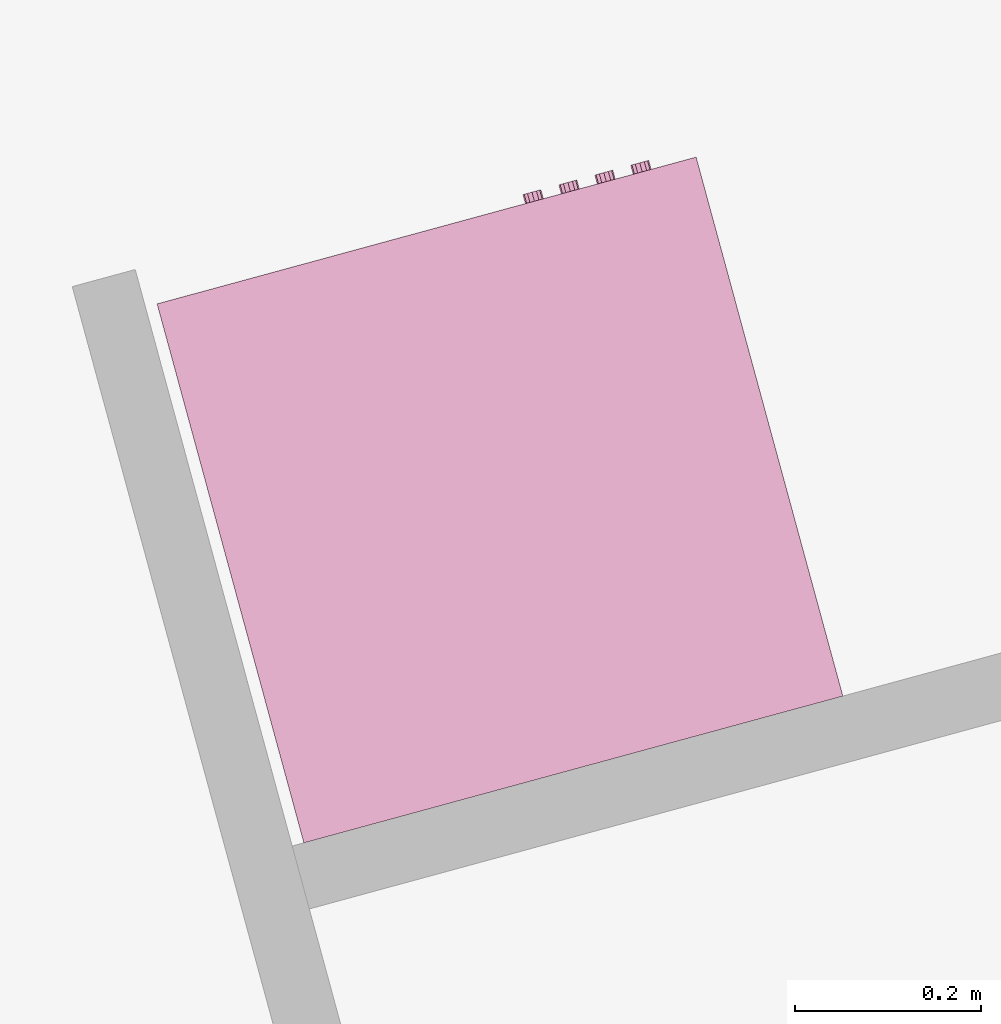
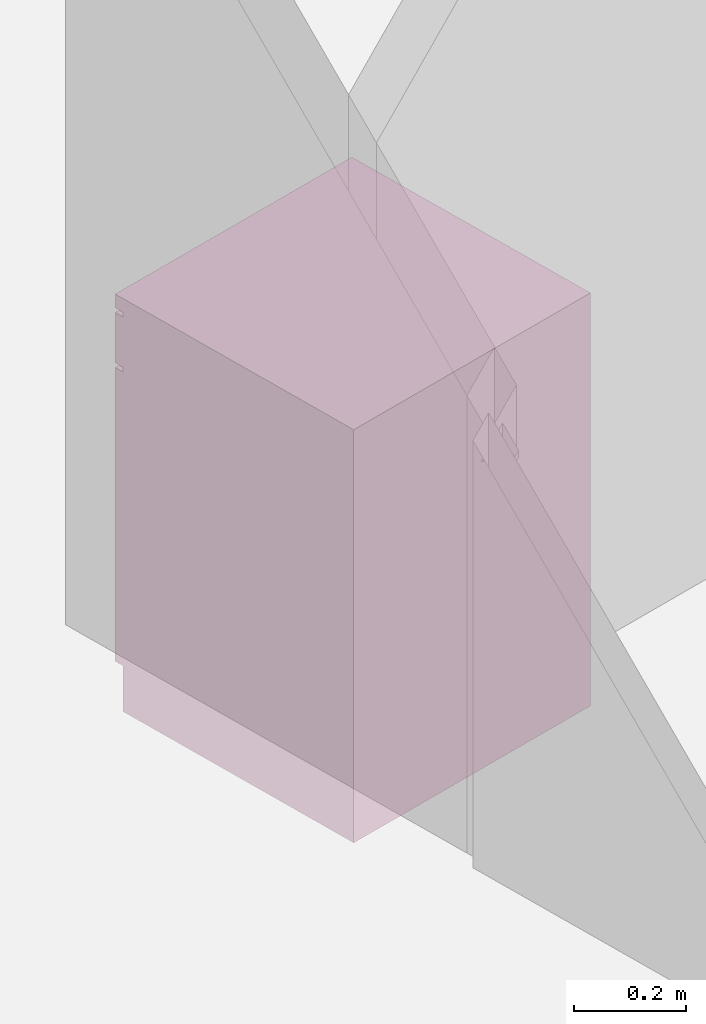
# One storey, part 107 of 121: 1 furnishing.
"""IFC2X3 building model written with IfcOpenShell, lengths in metres."""

from ifc_helpers import new_model, entity, si_unit, converted_unit, derived_unit, money_unit, direction, frame, origin_with_axes, place, context, subcontext, project, spatial, open_shell, faceted_brep, surface_model, source, transform, mapped, type_object, element, save


model = new_model("IFC2X3")

# Units and contexts
model_context = context("Model", 3, precision=1e-05, world=origin_with_axes(), true_north=direction((0.0, 1.0)))
body_context = subcontext(model_context, "Body", "Model", "MODEL_VIEW")
ifc_project = project(units=[si_unit("LENGTHUNIT", "METRE"), si_unit("AREAUNIT", "SQUARE_METRE"), si_unit("VOLUMEUNIT", "CUBIC_METRE"), converted_unit("PLANEANGLEUNIT", "DEGREE", entity("IfcPlaneAngleMeasure", 0.0174532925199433), si_unit("PLANEANGLEUNIT", "RADIAN"), dimensions=[0, 0, 0, 0, 0, 0, 0]), money_unit("CHF"), converted_unit("TIMEUNIT", "Year", entity("IfcTimeMeasure", 31557600.0), si_unit("TIMEUNIT", "SECOND"), dimensions=[0, 0, 1, 0, 0, 0, 0]), si_unit("MASSUNIT", "GRAM", prefix="KILO"), si_unit("THERMODYNAMICTEMPERATUREUNIT", "DEGREE_CELSIUS"), si_unit("LUMINOUSINTENSITYUNIT", "LUMEN"), si_unit("ENERGYUNIT", "JOULE", prefix="MEGA"), derived_unit("THERMALCONDUCTANCEUNIT", [(si_unit("POWERUNIT", "WATT"), 1), (si_unit("LENGTHUNIT", "METRE"), -1), (si_unit("THERMODYNAMICTEMPERATUREUNIT", "KELVIN"), -1)]), derived_unit("SPECIFICHEATCAPACITYUNIT", [(si_unit("ENERGYUNIT", "JOULE"), 1), (si_unit("MASSUNIT", "GRAM", prefix="KILO"), -1), (si_unit("THERMODYNAMICTEMPERATUREUNIT", "KELVIN"), -1)]), derived_unit("MASSDENSITYUNIT", [(si_unit("MASSUNIT", "GRAM", prefix="KILO"), 1), (si_unit("VOLUMEUNIT", "CUBIC_METRE"), -1)])], contexts=[model_context])

# Site, building, storey
site_placement = place(None, origin_with_axes())
site = spatial("IfcSite", under=ifc_project, at=site_placement, Name="Site", CompositionType="ELEMENT")
building_placement = place(site_placement, origin_with_axes())
building = spatial("IfcBuilding", under=site, at=building_placement, Name="Bâtiment", CompositionType="ELEMENT")
storey_placement = place(building_placement, frame((0.0, 0.0, 2.75), z_axis=(0.0, 0.0, 1.0), x_axis=(1.0, 0.0, 0.0)))
storey = spatial("IfcBuildingStorey", under=building, at=storey_placement, Name="Etage 1", CompositionType="ELEMENT", Elevation=2.75)

# Furnishing
furnishing_element_type = type_object("IfcFurnishingElementType", Name="Machine à laver")
shared_shape = source(origin_with_axes(), body_context, "Body", "SurfaceModel", [
    faceted_brep([(0.0, 0.02, 0.1), (0.6, 0.02, 0.1), (0.6, 0.0, 0.1), (0.0, 0.0, 0.1), (0.0, 0.02000000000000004, 0.74), (0.6, 0.02000000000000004, 0.74), (0.4714285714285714, 0.02000000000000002, 0.42), (0.4655872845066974, 0.02000000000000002, 0.4643689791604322), (0.448461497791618, 0.02000000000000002, 0.5057142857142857), (0.4212183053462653, 0.02000000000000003, 0.5412183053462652), (0.3857142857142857, 0.02000000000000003, 0.568461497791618), (0.3443689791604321, 0.02000000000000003, 0.5855872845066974), (0.3, 0.02000000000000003, 0.5914285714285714), (0.2556310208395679, 0.02000000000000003, 0.5855872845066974), (0.2142857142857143, 0.02000000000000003, 0.5684614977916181), (0.1787816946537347, 0.02000000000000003, 0.5412183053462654), (0.1515385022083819, 0.02000000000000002, 0.5057142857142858), (0.1344127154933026, 0.02000000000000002, 0.4643689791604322), (0.1285714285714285, 0.02000000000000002, 0.42), (0.1344127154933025, 0.02000000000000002, 0.3756310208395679), (0.1515385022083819, 0.02000000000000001, 0.3342857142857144), (0.1787816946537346, 0.02000000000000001, 0.2987816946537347), (0.2142857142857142, 0.02000000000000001, 0.2715385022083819), (0.2556310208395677, 0.02000000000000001, 0.2544127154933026), (0.2999999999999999, 0.02000000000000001, 0.2485714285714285), (0.344368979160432, 0.02000000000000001, 0.2544127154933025), (0.3857142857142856, 0.02000000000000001, 0.2715385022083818), (0.4212183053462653, 0.02000000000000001, 0.2987816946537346), (0.448461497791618, 0.02000000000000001, 0.3342857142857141), (0.4655872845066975, 0.02000000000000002, 0.3756310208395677), (0.6, 0.0, 0.74), (0.0, 0.0, 0.74), (0.4714285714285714, 0.0, 0.42), (0.4655872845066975, 0.0, 0.3756310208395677), (0.448461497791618, 0.0, 0.3342857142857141), (0.4212183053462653, 0.0, 0.2987816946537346), (0.3857142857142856, 0.0, 0.2715385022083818), (0.344368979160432, 0.0, 0.2544127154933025), (0.2999999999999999, 0.0, 0.2485714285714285), (0.2556310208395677, 0.0, 0.2544127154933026), (0.2142857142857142, 0.0, 0.2715385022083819), (0.1787816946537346, 0.0, 0.2987816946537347), (0.1515385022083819, 0.0, 0.3342857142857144), (0.1344127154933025, 0.0, 0.3756310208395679), (0.1285714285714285, 0.0, 0.42), (0.1344127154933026, 0.0, 0.4643689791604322), (0.1515385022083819, 0.0, 0.5057142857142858), (0.1787816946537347, 0.0, 0.5412183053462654), (0.2142857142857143, 0.0, 0.5684614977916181), (0.2556310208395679, 0.0, 0.5855872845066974), (0.3, 0.0, 0.5914285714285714), (0.3443689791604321, 0.0, 0.5855872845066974), (0.3857142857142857, 0.0, 0.568461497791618), (0.4212183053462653, 0.0, 0.5412183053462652), (0.448461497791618, 0.0, 0.5057142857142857), (0.4655872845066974, 0.0, 0.4643689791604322)], [[[0, 1, 2, 3]], [[0, 4, 5, 1], [6, 7, 8, 9, 10, 11, 12, 13, 14, 15, 16, 17, 18, 19, 20, 21, 22, 23, 24, 25, 26, 27, 28, 29]], [[1, 5, 30, 2]], [[3, 2, 30, 31], [32, 33, 34, 35, 36, 37, 38, 39, 40, 41, 42, 43, 44, 45, 46, 47, 48, 49, 50, 51, 52, 53, 54, 55]], [[4, 0, 3, 31]], [[5, 4, 31, 30]], [[7, 6, 32, 55]], [[8, 7, 55, 54]], [[9, 8, 54, 53]], [[10, 9, 53, 52]], [[11, 10, 52, 51]], [[12, 11, 51, 50]], [[13, 12, 50, 49]], [[14, 13, 49, 48]], [[15, 14, 48, 47]], [[16, 15, 47, 46]], [[17, 16, 46, 45]], [[18, 17, 45, 44]], [[19, 18, 44, 43]], [[20, 19, 43, 42]], [[21, 20, 42, 41]], [[22, 21, 41, 40]], [[23, 22, 40, 39]], [[24, 23, 39, 38]], [[25, 24, 38, 37]], [[26, 25, 37, 36]], [[27, 26, 36, 35]], [[28, 27, 35, 34]], [[29, 28, 34, 33]], [[6, 29, 33, 32]]]),
    faceted_brep([(0.4714285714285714, 0.04000000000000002, 0.42), (0.4655872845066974, 0.04000000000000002, 0.4643689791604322), (0.4655872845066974, 0.02000000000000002, 0.4643689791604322), (0.4714285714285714, 0.02000000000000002, 0.42), (0.4655872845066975, 0.04000000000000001, 0.3756310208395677), (0.448461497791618, 0.04000000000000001, 0.3342857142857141), (0.4212183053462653, 0.04000000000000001, 0.2987816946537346), (0.3857142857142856, 0.04000000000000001, 0.2715385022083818), (0.344368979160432, 0.04000000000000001, 0.2544127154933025), (0.2999999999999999, 0.04000000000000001, 0.2485714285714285), (0.2556310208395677, 0.04000000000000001, 0.2544127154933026), (0.2142857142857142, 0.04000000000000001, 0.2715385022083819), (0.1787816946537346, 0.04000000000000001, 0.2987816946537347), (0.1515385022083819, 0.04000000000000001, 0.3342857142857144), (0.1344127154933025, 0.04000000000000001, 0.3756310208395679), (0.1285714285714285, 0.04000000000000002, 0.42), (0.1344127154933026, 0.04000000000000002, 0.4643689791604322), (0.1515385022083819, 0.04000000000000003, 0.5057142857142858), (0.1787816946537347, 0.04000000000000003, 0.5412183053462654), (0.2142857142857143, 0.04000000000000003, 0.5684614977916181), (0.2556310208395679, 0.04000000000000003, 0.5855872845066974), (0.3, 0.04000000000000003, 0.5914285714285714), (0.3443689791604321, 0.04000000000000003, 0.5855872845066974), (0.3857142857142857, 0.04000000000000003, 0.568461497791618), (0.4212183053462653, 0.04000000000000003, 0.5412183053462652), (0.448461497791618, 0.04000000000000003, 0.5057142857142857), (0.4371428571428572, 0.04000000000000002, 0.42), (0.432469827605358, 0.04000000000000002, 0.4554951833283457), (0.4187691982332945, 0.04000000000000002, 0.4885714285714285), (0.3969746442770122, 0.04000000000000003, 0.5169746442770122), (0.3685714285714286, 0.04000000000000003, 0.5387691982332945), (0.3354951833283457, 0.04000000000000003, 0.552469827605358), (0.3, 0.04000000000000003, 0.5571428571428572), (0.2645048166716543, 0.04000000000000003, 0.552469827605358), (0.2314285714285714, 0.04000000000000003, 0.5387691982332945), (0.2030253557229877, 0.04000000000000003, 0.5169746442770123), (0.1812308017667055, 0.04000000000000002, 0.4885714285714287), (0.167530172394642, 0.04000000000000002, 0.4554951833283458), (0.1628571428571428, 0.04000000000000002, 0.42), (0.167530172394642, 0.04000000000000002, 0.3845048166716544), (0.1812308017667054, 0.04000000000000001, 0.3514285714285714), (0.2030253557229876, 0.04000000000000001, 0.3230253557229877), (0.2314285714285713, 0.04000000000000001, 0.3012308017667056), (0.2645048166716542, 0.04000000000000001, 0.287530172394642), (0.2999999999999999, 0.04000000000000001, 0.2828571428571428), (0.3354951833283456, 0.04000000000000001, 0.287530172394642), (0.3685714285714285, 0.04000000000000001, 0.3012308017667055), (0.3969746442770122, 0.04000000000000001, 0.3230253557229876), (0.4187691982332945, 0.04000000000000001, 0.3514285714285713), (0.432469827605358, 0.04000000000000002, 0.3845048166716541), (0.448461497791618, 0.02000000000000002, 0.5057142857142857), (0.4212183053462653, 0.02000000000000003, 0.5412183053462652), (0.3857142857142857, 0.02000000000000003, 0.568461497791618), (0.3443689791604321, 0.02000000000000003, 0.5855872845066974), (0.3, 0.02000000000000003, 0.5914285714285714), (0.2556310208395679, 0.02000000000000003, 0.5855872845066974), (0.2142857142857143, 0.02000000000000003, 0.5684614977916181), (0.1787816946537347, 0.02000000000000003, 0.5412183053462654), (0.1515385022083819, 0.02000000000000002, 0.5057142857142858), (0.1344127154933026, 0.02000000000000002, 0.4643689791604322), (0.1285714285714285, 0.02000000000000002, 0.42), (0.1344127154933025, 0.02000000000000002, 0.3756310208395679), (0.1515385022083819, 0.02000000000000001, 0.3342857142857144), (0.1787816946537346, 0.02000000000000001, 0.2987816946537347), (0.2142857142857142, 0.02000000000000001, 0.2715385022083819), (0.2556310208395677, 0.02000000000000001, 0.2544127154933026), (0.2999999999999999, 0.02000000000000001, 0.2485714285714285), (0.344368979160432, 0.02000000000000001, 0.2544127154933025), (0.3857142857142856, 0.02000000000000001, 0.2715385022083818), (0.4212183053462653, 0.02000000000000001, 0.2987816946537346), (0.448461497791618, 0.02000000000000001, 0.3342857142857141), (0.4655872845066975, 0.02000000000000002, 0.3756310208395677), (0.4371428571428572, 0.02000000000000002, 0.42), (0.432469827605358, 0.02000000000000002, 0.3845048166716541), (0.4187691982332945, 0.02000000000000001, 0.3514285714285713), (0.3969746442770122, 0.02000000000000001, 0.3230253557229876), (0.3685714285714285, 0.02000000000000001, 0.3012308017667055), (0.3354951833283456, 0.02000000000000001, 0.287530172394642), (0.2999999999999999, 0.02000000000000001, 0.2828571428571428), (0.2645048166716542, 0.02000000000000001, 0.287530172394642), (0.2314285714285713, 0.02000000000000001, 0.3012308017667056), (0.2030253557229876, 0.02000000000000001, 0.3230253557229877), (0.1812308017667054, 0.02000000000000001, 0.3514285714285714), (0.167530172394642, 0.02000000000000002, 0.3845048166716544), (0.1628571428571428, 0.02000000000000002, 0.42), (0.167530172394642, 0.02000000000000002, 0.4554951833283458), (0.1812308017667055, 0.02000000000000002, 0.4885714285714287), (0.2030253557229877, 0.02000000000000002, 0.5169746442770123), (0.2314285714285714, 0.02000000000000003, 0.5387691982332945), (0.2645048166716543, 0.02000000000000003, 0.552469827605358), (0.3, 0.02000000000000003, 0.5571428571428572), (0.3354951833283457, 0.02000000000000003, 0.552469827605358), (0.3685714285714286, 0.02000000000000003, 0.5387691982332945), (0.3969746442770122, 0.02000000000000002, 0.5169746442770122), (0.4187691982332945, 0.02000000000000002, 0.4885714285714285), (0.432469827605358, 0.02000000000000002, 0.4554951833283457)], [[[0, 1, 2, 3]], [[0, 4, 5, 6, 7, 8, 9, 10, 11, 12, 13, 14, 15, 16, 17, 18, 19, 20, 21, 22, 23, 24, 25, 1], [26, 27, 28, 29, 30, 31, 32, 33, 34, 35, 36, 37, 38, 39, 40, 41, 42, 43, 44, 45, 46, 47, 48, 49]], [[1, 25, 50, 2]], [[3, 2, 50, 51, 52, 53, 54, 55, 56, 57, 58, 59, 60, 61, 62, 63, 64, 65, 66, 67, 68, 69, 70, 71], [72, 73, 74, 75, 76, 77, 78, 79, 80, 81, 82, 83, 84, 85, 86, 87, 88, 89, 90, 91, 92, 93, 94, 95]], [[4, 0, 3, 71]], [[5, 4, 71, 70]], [[6, 5, 70, 69]], [[7, 6, 69, 68]], [[8, 7, 68, 67]], [[9, 8, 67, 66]], [[10, 9, 66, 65]], [[11, 10, 65, 64]], [[12, 11, 64, 63]], [[13, 12, 63, 62]], [[14, 13, 62, 61]], [[15, 14, 61, 60]], [[16, 15, 60, 59]], [[17, 16, 59, 58]], [[18, 17, 58, 57]], [[19, 18, 57, 56]], [[20, 19, 56, 55]], [[21, 20, 55, 54]], [[22, 21, 54, 53]], [[23, 22, 53, 52]], [[24, 23, 52, 51]], [[25, 24, 51, 50]], [[27, 26, 72, 95]], [[28, 27, 95, 94]], [[29, 28, 94, 93]], [[30, 29, 93, 92]], [[31, 30, 92, 91]], [[32, 31, 91, 90]], [[33, 32, 90, 89]], [[34, 33, 89, 88]], [[35, 34, 88, 87]], [[36, 35, 87, 86]], [[37, 36, 86, 85]], [[38, 37, 85, 84]], [[39, 38, 84, 83]], [[40, 39, 83, 82]], [[41, 40, 82, 81]], [[42, 41, 81, 80]], [[43, 42, 80, 79]], [[44, 43, 79, 78]], [[45, 44, 78, 77]], [[46, 45, 77, 76]], [[47, 46, 76, 75]], [[48, 47, 75, 74]], [[49, 48, 74, 73]], [[26, 49, 73, 72]]]),
    surface_model("IfcShellBasedSurfaceModel", [(0.2645048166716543, 0.03999999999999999, 0.552469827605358), (0.3, 0.03999999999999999, 0.5571428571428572), (0.3, 0.14, 0.5228571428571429), (0.2733786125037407, 0.14, 0.5193523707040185), (0.3354951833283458, 0.03999999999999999, 0.552469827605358), (0.3266213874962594, 0.14, 0.5193523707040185), (0.3514285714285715, 0.14, 0.5090768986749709), (0.3727309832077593, 0.14, 0.4927309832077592), (0.3890768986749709, 0.14, 0.4714285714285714), (0.3993523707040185, 0.14, 0.4466213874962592), (0.4028571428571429, 0.14, 0.42), (0.3993523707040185, 0.14, 0.3933786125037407), (0.3890768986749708, 0.14, 0.3685714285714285), (0.3727309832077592, 0.14, 0.3472690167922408), (0.3514285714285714, 0.14, 0.3309231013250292), (0.3266213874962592, 0.14, 0.3206476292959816), (0.2999999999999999, 0.14, 0.3171428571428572), (0.2733786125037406, 0.14, 0.3206476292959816), (0.2485714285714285, 0.14, 0.3309231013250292), (0.2272690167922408, 0.14, 0.3472690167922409), (0.2109231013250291, 0.14, 0.3685714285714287), (0.2006476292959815, 0.14, 0.3933786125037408), (0.1971428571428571, 0.14, 0.4200000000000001), (0.2006476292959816, 0.14, 0.4466213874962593), (0.2109231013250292, 0.14, 0.4714285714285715), (0.2272690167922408, 0.14, 0.4927309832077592), (0.2485714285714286, 0.14, 0.5090768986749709), (0.2314285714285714, 0.03999999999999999, 0.5387691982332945), (0.3685714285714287, 0.03999999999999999, 0.5387691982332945), (0.3969746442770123, 0.03999999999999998, 0.5169746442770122), (0.4187691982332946, 0.03999999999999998, 0.4885714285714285), (0.432469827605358, 0.03999999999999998, 0.4554951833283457), (0.4371428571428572, 0.03999999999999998, 0.4199999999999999), (0.432469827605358, 0.03999999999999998, 0.3845048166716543), (0.4187691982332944, 0.03999999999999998, 0.3514285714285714), (0.3969746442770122, 0.03999999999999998, 0.3230253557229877), (0.3685714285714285, 0.03999999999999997, 0.3012308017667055), (0.3354951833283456, 0.03999999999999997, 0.2875301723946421), (0.2999999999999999, 0.03999999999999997, 0.2828571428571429), (0.2645048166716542, 0.03999999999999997, 0.2875301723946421), (0.2314285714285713, 0.03999999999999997, 0.3012308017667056), (0.2030253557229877, 0.03999999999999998, 0.3230253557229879), (0.1812308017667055, 0.03999999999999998, 0.3514285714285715), (0.167530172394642, 0.03999999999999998, 0.3845048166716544), (0.1628571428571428, 0.03999999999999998, 0.4200000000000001), (0.167530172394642, 0.03999999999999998, 0.4554951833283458), (0.1812308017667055, 0.03999999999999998, 0.4885714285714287), (0.2030253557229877, 0.03999999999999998, 0.5169746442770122)], [open_shell([[[0, 1, 2, 3]], [[1, 4, 5, 2]], [[2, 5, 6, 7, 8, 9, 10, 11, 12, 13, 14, 15, 16, 17, 18, 19, 20, 21, 22, 23, 24, 25, 26, 3]], [[27, 0, 3, 26]], [[4, 28, 6, 5]], [[28, 29, 7, 6]], [[29, 30, 8, 7]], [[30, 31, 9, 8]], [[31, 32, 10, 9]], [[32, 33, 11, 10]], [[33, 34, 12, 11]], [[34, 35, 13, 12]], [[35, 36, 14, 13]], [[36, 37, 15, 14]], [[37, 38, 16, 15]], [[38, 39, 17, 16]], [[39, 40, 18, 17]], [[40, 41, 19, 18]], [[41, 42, 20, 19]], [[42, 43, 21, 20]], [[43, 44, 22, 21]], [[44, 45, 23, 22]], [[45, 46, 24, 23]], [[46, 47, 25, 24]], [[47, 27, 26, 25]]])]),
    surface_model("IfcShellBasedSurfaceModel", [(0.0, 0.02, 0.1), (0.0, 0.02000000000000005, 0.87), (0.0, 0.6, 0.87), (0.0, 0.6, 0.09999999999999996)], [open_shell([[[0, 1, 2, 3]]])]),
    surface_model("IfcShellBasedSurfaceModel", [(0.6, 0.01999999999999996, 0.1), (0.6, 0.02000000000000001, 0.87), (0.6, 0.5999999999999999, 0.87), (0.6, 0.5999999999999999, 0.09999999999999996)], [open_shell([[[0, 1, 2, 3]]])]),
    surface_model("IfcShellBasedSurfaceModel", [(0.0, 0.6, 0.1), (0.0, 0.6, 0.87), (0.6, 0.6, 0.87), (0.6, 0.6, 0.1)], [open_shell([[[0, 1, 2, 3]]])]),
    faceted_brep([(0.0, 0.02, 0.0), (0.6, 0.02, 0.0), (0.6, 0.02, 0.1), (0.0, 0.02, 0.1), (0.0, 0.6, 0.0), (0.6, 0.6, 0.0), (0.6, 0.6, 0.1), (0.0, 0.6, 0.1)], [[[0, 1, 2, 3]], [[0, 4, 5, 1]], [[1, 5, 6, 2]], [[3, 2, 6, 7]], [[4, 0, 3, 7]], [[5, 4, 7, 6]]]),
    faceted_brep([(0.0, 0.02, 0.75), (0.6, 0.02, 0.75), (0.6, 0.0, 0.75), (0.0, 0.0, 0.75), (0.0, 0.02000000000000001, 0.86), (0.6, 0.02000000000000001, 0.86), (0.6, 0.0, 0.86), (0.0, 0.0, 0.86)], [[[0, 1, 2, 3]], [[0, 4, 5, 1]], [[1, 5, 6, 2]], [[3, 2, 6, 7]], [[4, 0, 3, 7]], [[5, 4, 7, 6]]]),
    surface_model("IfcShellBasedSurfaceModel", [(0.0, 0.02, 0.74), (0.0, 0.02000000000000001, 0.87), (0.6, 0.02000000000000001, 0.87), (0.6, 0.02, 0.74)], [open_shell([[[0, 1, 2, 3]]])]),
    faceted_brep([(0.0, 0.0, 0.87), (0.6, 0.0, 0.87), (0.6, 0.0, 0.9), (0.0, 0.0, 0.9), (0.0, 0.6, 0.87), (0.6, 0.6, 0.87), (0.6, 0.6, 0.9), (0.0, 0.6, 0.9)], [[[0, 1, 2, 3]], [[0, 4, 5, 1]], [[1, 5, 6, 2]], [[3, 2, 6, 7]], [[4, 0, 3, 7]], [[5, 4, 7, 6]]]),
    faceted_brep([(0.06866025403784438, 0.0, 0.8049999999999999), (0.06499999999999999, 0.0, 0.8013397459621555), (0.05999999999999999, 0.0, 0.7999999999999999), (0.05499999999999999, 0.0, 0.8013397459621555), (0.05133974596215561, 0.0, 0.8049999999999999), (0.05, 0.0, 0.8099999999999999), (0.05133974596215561, 0.0, 0.815), (0.055, 0.0, 0.8186602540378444), (0.06, 0.0, 0.82), (0.065, 0.0, 0.8186602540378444), (0.06866025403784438, 0.0, 0.815), (0.06999999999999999, 0.0, 0.8099999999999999), (0.06866025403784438, -0.01, 0.8049999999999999), (0.06499999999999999, -0.01, 0.8013397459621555), (0.05999999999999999, -0.01, 0.7999999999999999), (0.05499999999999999, -0.01, 0.8013397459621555), (0.05133974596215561, -0.01, 0.8049999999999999), (0.05, -0.01, 0.8099999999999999), (0.05133974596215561, -0.01, 0.815), (0.055, -0.01, 0.8186602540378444), (0.06, -0.01, 0.82), (0.065, -0.01, 0.8186602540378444), (0.06866025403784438, -0.01, 0.815), (0.06999999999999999, -0.01, 0.8099999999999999)], [[[0, 1, 2, 3, 4, 5, 6, 7, 8, 9, 10, 11]], [[1, 0, 12, 13]], [[2, 1, 13, 14]], [[3, 2, 14, 15]], [[4, 3, 15, 16]], [[5, 4, 16, 17]], [[6, 5, 17, 18]], [[7, 6, 18, 19]], [[8, 7, 19, 20]], [[9, 8, 20, 21]], [[10, 9, 21, 22]], [[11, 10, 22, 23]], [[0, 11, 23, 12]], [[12, 23, 22, 21, 20, 19, 18, 17, 16, 15, 14, 13]]]),
    faceted_brep([(0.1086602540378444, 0.0, 0.8049999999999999), (0.105, 0.0, 0.8013397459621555), (0.09999999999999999, 0.0, 0.7999999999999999), (0.095, 0.0, 0.8013397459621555), (0.09133974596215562, 0.0, 0.8049999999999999), (0.09000000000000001, 0.0, 0.8099999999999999), (0.09133974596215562, 0.0, 0.815), (0.095, 0.0, 0.8186602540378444), (0.1, 0.0, 0.82), (0.105, 0.0, 0.8186602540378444), (0.1086602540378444, 0.0, 0.815), (0.11, 0.0, 0.8099999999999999), (0.1086602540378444, -0.01, 0.8049999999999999), (0.105, -0.01, 0.8013397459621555), (0.09999999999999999, -0.01, 0.7999999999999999), (0.095, -0.01, 0.8013397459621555), (0.09133974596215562, -0.01, 0.8049999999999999), (0.09000000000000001, -0.01, 0.8099999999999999), (0.09133974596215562, -0.01, 0.815), (0.095, -0.01, 0.8186602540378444), (0.1, -0.01, 0.82), (0.105, -0.01, 0.8186602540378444), (0.1086602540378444, -0.01, 0.815), (0.11, -0.01, 0.8099999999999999)], [[[0, 1, 2, 3, 4, 5, 6, 7, 8, 9, 10, 11]], [[1, 0, 12, 13]], [[2, 1, 13, 14]], [[3, 2, 14, 15]], [[4, 3, 15, 16]], [[5, 4, 16, 17]], [[6, 5, 17, 18]], [[7, 6, 18, 19]], [[8, 7, 19, 20]], [[9, 8, 20, 21]], [[10, 9, 21, 22]], [[11, 10, 22, 23]], [[0, 11, 23, 12]], [[12, 23, 22, 21, 20, 19, 18, 17, 16, 15, 14, 13]]]),
    faceted_brep([(0.1486602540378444, 0.0, 0.8049999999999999), (0.145, 0.0, 0.8013397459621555), (0.14, 0.0, 0.7999999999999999), (0.135, 0.0, 0.8013397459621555), (0.1313397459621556, 0.0, 0.8049999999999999), (0.13, 0.0, 0.8099999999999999), (0.1313397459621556, 0.0, 0.815), (0.135, 0.0, 0.8186602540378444), (0.14, 0.0, 0.82), (0.145, 0.0, 0.8186602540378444), (0.1486602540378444, 0.0, 0.815), (0.15, 0.0, 0.8099999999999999), (0.1486602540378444, -0.01, 0.8049999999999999), (0.145, -0.01, 0.8013397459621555), (0.14, -0.01, 0.7999999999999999), (0.135, -0.01, 0.8013397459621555), (0.1313397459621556, -0.01, 0.8049999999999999), (0.13, -0.01, 0.8099999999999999), (0.1313397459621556, -0.01, 0.815), (0.135, -0.01, 0.8186602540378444), (0.14, -0.01, 0.82), (0.145, -0.01, 0.8186602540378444), (0.1486602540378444, -0.01, 0.815), (0.15, -0.01, 0.8099999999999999)], [[[0, 1, 2, 3, 4, 5, 6, 7, 8, 9, 10, 11]], [[1, 0, 12, 13]], [[2, 1, 13, 14]], [[3, 2, 14, 15]], [[4, 3, 15, 16]], [[5, 4, 16, 17]], [[6, 5, 17, 18]], [[7, 6, 18, 19]], [[8, 7, 19, 20]], [[9, 8, 20, 21]], [[10, 9, 21, 22]], [[11, 10, 22, 23]], [[0, 11, 23, 12]], [[12, 23, 22, 21, 20, 19, 18, 17, 16, 15, 14, 13]]]),
    faceted_brep([(0.1886602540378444, 0.0, 0.8049999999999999), (0.185, 0.0, 0.8013397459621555), (0.18, 0.0, 0.7999999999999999), (0.175, 0.0, 0.8013397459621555), (0.1713397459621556, 0.0, 0.8049999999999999), (0.17, 0.0, 0.8099999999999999), (0.1713397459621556, 0.0, 0.815), (0.175, 0.0, 0.8186602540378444), (0.18, 0.0, 0.82), (0.185, 0.0, 0.8186602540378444), (0.1886602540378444, 0.0, 0.815), (0.19, 0.0, 0.8099999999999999), (0.1886602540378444, -0.01, 0.8049999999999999), (0.185, -0.01, 0.8013397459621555), (0.18, -0.01, 0.7999999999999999), (0.175, -0.01, 0.8013397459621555), (0.1713397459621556, -0.01, 0.8049999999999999), (0.17, -0.01, 0.8099999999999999), (0.1713397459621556, -0.01, 0.815), (0.175, -0.01, 0.8186602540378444), (0.18, -0.01, 0.82), (0.185, -0.01, 0.8186602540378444), (0.1886602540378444, -0.01, 0.815), (0.19, -0.01, 0.8099999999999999)], [[[0, 1, 2, 3, 4, 5, 6, 7, 8, 9, 10, 11]], [[1, 0, 12, 13]], [[2, 1, 13, 14]], [[3, 2, 14, 15]], [[4, 3, 15, 16]], [[5, 4, 16, 17]], [[6, 5, 17, 18]], [[7, 6, 18, 19]], [[8, 7, 19, 20]], [[9, 8, 20, 21]], [[10, 9, 21, 22]], [[11, 10, 22, 23]], [[0, 11, 23, 12]], [[12, 23, 22, 21, 20, 19, 18, 17, 16, 15, 14, 13]]]),
])
furnishing_placement = place(storey_placement, frame((9592.882812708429, -1047.790953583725, 57.49999999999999), z_axis=(0.0, 0.0, 1.0), x_axis=(-0.9648682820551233, -0.2627340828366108, 0.0)))
element("IfcFurnishingElement", 1, at=furnishing_placement, inside=storey, type_object=furnishing_element_type, Name="Obj.-019", context=body_context, shape_type="MappedRepresentation", body=[
    mapped(shared_shape, transform((0.0, 0.0, 0.0))),
])

save(model, "model.ifc")
